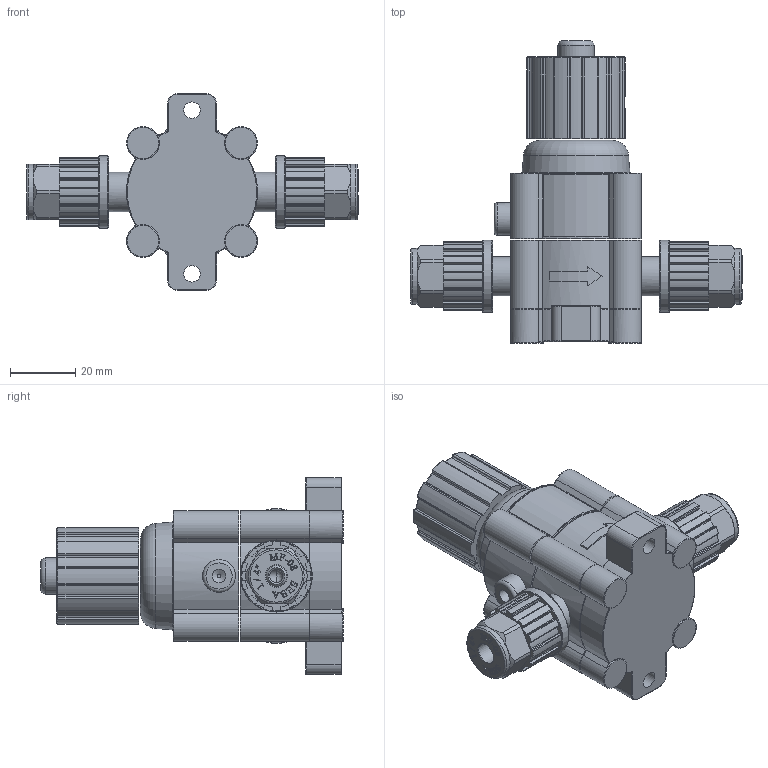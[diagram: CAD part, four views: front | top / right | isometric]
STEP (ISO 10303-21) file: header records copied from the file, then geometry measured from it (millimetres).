
FILE_DESCRIPTION(/* description */ (''),/* implementation_level */ '2;1');
FILE_NAME(/* name */ 'E:\SEBA\004 SEBA BACK UP(2018-01-11)\SEBA\001 DRAWING\SOILID WORKS\밸브\PFA_Valve\Manual-Valve\SM-PA-MF008-C\Imported Components\어셈블리1\SM-PA-MF008-C.stp',/* time_stamp */ '2020-08-20T16:21:38+09:00',/* author */ ('KBS'),/* organization */ (''),/* preprocessor_version */ 'ST-DEVELOPER v15.2',/* originating_system */ 'Autodesk Inventor 2014',/* authorisation */ '');
FILE_SCHEMA (('AUTOMOTIVE_DESIGN { 1 0 10303 214 3 1 1 }'));
Length unit declared in the file: millimetre
Products named in the file (1): SM-PA-MF008-C
Bounding box: 101.4 x 92.5 x 60 mm (x, y, z)
Volume: 74033.3 mm3; surface area: 40493.8 mm2
Topology: 3 solids, 5 shells, 1816 faces, 4909 edges, 3207 vertices
Faces by surface type: plane 922, cylinder 477, bspline 290, torus 102, cone 22, sphere 3
Full cylindrical faces by diameter (mm): 1 x1, 4 x3, 4.2 x2, 4.5 x8, 5 x3, 6.5 x2, 7 x4, 7.5 x2, 8 x5, 9 x2, 10 x10, 10.5 x2, 11 x1, 12 x2, 13 x1, 15 x1, 17 x2, 20 x2, 22 x2, 24 x1, 25 x2, 30 x2, 33 x4
Entity records: 68580 total; most frequent: CARTESIAN_POINT 22735, ORIENTED_EDGE 9550, DIRECTION 8367, EDGE_CURVE 4775, VERTEX_POINT 3173, LINE 2987, VECTOR 2987, AXIS2_PLACEMENT_3D 2690
